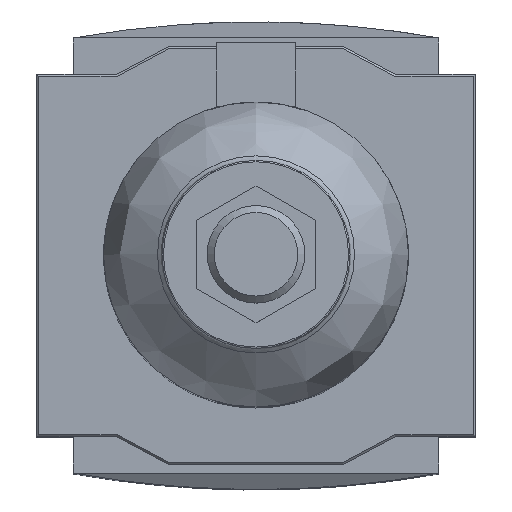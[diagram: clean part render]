
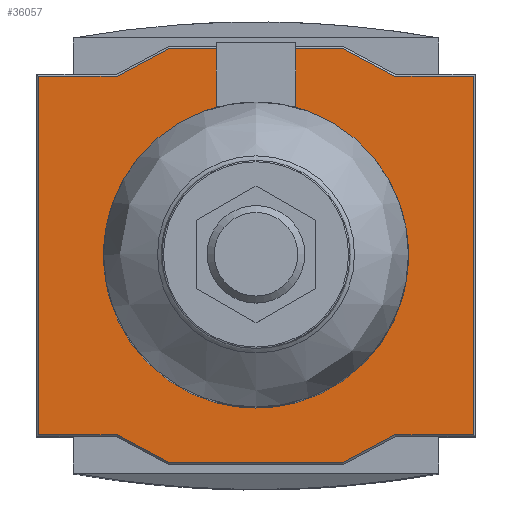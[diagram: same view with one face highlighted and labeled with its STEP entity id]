
A CAD part, top view. The second image highlights one B-rep face of the part: STEP entity #36057.
In plain terms, the highlighted planar face has unit normal (0, 0, 1).
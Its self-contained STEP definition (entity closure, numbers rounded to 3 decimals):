
#15791=CARTESIAN_POINT('',(5.7,21.145,37.5));
#15792=VERTEX_POINT('',#15791);
#15801=CARTESIAN_POINT('',(5.7,28.74,37.5));
#15802=VERTEX_POINT('',#15801);
#15803=CARTESIAN_POINT('',(5.7,28.74,37.5));
#15804=DIRECTION('',(0.0,-1.0,0.0));
#15805=VECTOR('',#15804,7.595);
#15806=LINE('',#15803,#15805);
#15807=EDGE_CURVE('',#15802,#15792,#15806,.T.);
#15833=CARTESIAN_POINT('',(-5.7,28.74,37.5));
#15834=VERTEX_POINT('',#15833);
#15835=CARTESIAN_POINT('',(0.,0.0,37.5));
#15836=DIRECTION('',(0.0,0.0,-1.0));
#15837=DIRECTION('',(0.0,1.0,0.0));
#15838=AXIS2_PLACEMENT_3D('',#15835,#15836,#15837);
#15839=CIRCLE('',#15838,29.3);
#15840=EDGE_CURVE('',#15834,#15802,#15839,.T.);
#15858=CARTESIAN_POINT('',(-5.7,21.145,37.5));
#15859=VERTEX_POINT('',#15858);
#15875=CARTESIAN_POINT('',(-5.7,21.145,37.5));
#15876=DIRECTION('',(0.0,1.0,0.0));
#15877=VECTOR('',#15876,7.595);
#15878=LINE('',#15875,#15877);
#15879=EDGE_CURVE('',#15859,#15834,#15878,.T.);
#16522=CARTESIAN_POINT('',(0.,0.0,37.5));
#16523=DIRECTION('',(0.0,0.0,-1.0));
#16524=DIRECTION('',(0.0,1.0,0.0));
#16525=AXIS2_PLACEMENT_3D('',#16522,#16523,#16524);
#16526=CIRCLE('',#16525,21.9);
#16527=EDGE_CURVE('',#15792,#15859,#16526,.T.);
#35716=CARTESIAN_POINT('',(-31.25,25.75,37.5));
#35717=VERTEX_POINT('',#35716);
#35724=CARTESIAN_POINT('',(-19.938,25.75,37.5));
#35725=VERTEX_POINT('',#35724);
#35726=CARTESIAN_POINT('',(-31.25,25.75,37.5));
#35727=DIRECTION('',(1.0,0.0,0.0));
#35728=VECTOR('',#35727,11.312);
#35729=LINE('',#35726,#35728);
#35730=EDGE_CURVE('',#35717,#35725,#35729,.T.);
#35748=CARTESIAN_POINT('',(-19.937,-25.75,37.5));
#35749=VERTEX_POINT('',#35748);
#35750=CARTESIAN_POINT('',(-31.25,-25.75,37.5));
#35751=VERTEX_POINT('',#35750);
#35752=CARTESIAN_POINT('',(-19.937,-25.75,37.5));
#35753=DIRECTION('',(-1.0,0.0,0.0));
#35754=VECTOR('',#35753,11.313);
#35755=LINE('',#35752,#35754);
#35756=EDGE_CURVE('',#35749,#35751,#35755,.T.);
#35780=CARTESIAN_POINT('',(-12.438,29.75,37.5));
#35781=VERTEX_POINT('',#35780);
#35782=CARTESIAN_POINT('',(-19.938,25.75,37.5));
#35783=DIRECTION('',(0.882,0.471,0.0));
#35784=VECTOR('',#35783,8.5);
#35785=LINE('',#35782,#35784);
#35786=EDGE_CURVE('',#35725,#35781,#35785,.T.);
#35804=CARTESIAN_POINT('',(12.438,29.75,37.5));
#35805=VERTEX_POINT('',#35804);
#35806=CARTESIAN_POINT('',(-12.438,29.75,37.5));
#35807=DIRECTION('',(1.0,0.0,0.0));
#35808=VECTOR('',#35807,24.875);
#35809=LINE('',#35806,#35808);
#35810=EDGE_CURVE('',#35781,#35805,#35809,.T.);
#35828=CARTESIAN_POINT('',(19.937,25.75,37.5));
#35829=VERTEX_POINT('',#35828);
#35830=CARTESIAN_POINT('',(31.25,25.75,37.5));
#35831=VERTEX_POINT('',#35830);
#35832=CARTESIAN_POINT('',(19.937,25.75,37.5));
#35833=DIRECTION('',(1.0,0.0,0.0));
#35834=VECTOR('',#35833,11.313);
#35835=LINE('',#35832,#35834);
#35836=EDGE_CURVE('',#35829,#35831,#35835,.T.);
#35860=CARTESIAN_POINT('',(31.25,-25.75,37.5));
#35861=VERTEX_POINT('',#35860);
#35883=CARTESIAN_POINT('',(31.25,25.75,37.5));
#35884=DIRECTION('',(0.0,-1.0,0.0));
#35885=VECTOR('',#35884,51.5);
#35886=LINE('',#35883,#35885);
#35887=EDGE_CURVE('',#35831,#35861,#35886,.T.);
#35903=CARTESIAN_POINT('',(19.937,-25.75,37.5));
#35904=VERTEX_POINT('',#35903);
#35905=CARTESIAN_POINT('',(31.25,-25.75,37.5));
#35906=DIRECTION('',(-1.0,0.0,0.0));
#35907=VECTOR('',#35906,11.313);
#35908=LINE('',#35905,#35907);
#35909=EDGE_CURVE('',#35861,#35904,#35908,.T.);
#35925=CARTESIAN_POINT('',(12.437,-29.75,37.5));
#35926=VERTEX_POINT('',#35925);
#35927=CARTESIAN_POINT('',(19.937,-25.75,37.5));
#35928=DIRECTION('',(-0.882,-0.471,0.0));
#35929=VECTOR('',#35928,8.5);
#35930=LINE('',#35927,#35929);
#35931=EDGE_CURVE('',#35904,#35926,#35930,.T.);
#35949=CARTESIAN_POINT('',(12.438,29.75,37.5));
#35950=DIRECTION('',(0.882,-0.471,0.0));
#35951=VECTOR('',#35950,8.5);
#35952=LINE('',#35949,#35951);
#35953=EDGE_CURVE('',#35805,#35829,#35952,.T.);
#35966=CARTESIAN_POINT('',(-12.437,-29.75,37.5));
#35967=VERTEX_POINT('',#35966);
#35968=CARTESIAN_POINT('',(12.437,-29.75,37.5));
#35969=DIRECTION('',(-1.0,0.0,0.0));
#35970=VECTOR('',#35969,24.875);
#35971=LINE('',#35968,#35970);
#35972=EDGE_CURVE('',#35926,#35967,#35971,.T.);
#35990=CARTESIAN_POINT('',(-12.437,-29.75,37.5));
#35991=DIRECTION('',(-0.882,0.471,0.0));
#35992=VECTOR('',#35991,8.5);
#35993=LINE('',#35990,#35992);
#35994=EDGE_CURVE('',#35967,#35749,#35993,.T.);
#36010=CARTESIAN_POINT('',(-31.25,-25.75,37.5));
#36011=DIRECTION('',(0.0,1.0,0.0));
#36012=VECTOR('',#36011,51.5);
#36013=LINE('',#36010,#36012);
#36014=EDGE_CURVE('',#35751,#35717,#36013,.T.);
#36032=CARTESIAN_POINT('',(0.,0.,37.5));
#36033=DIRECTION('',(0.0,0.0,1.0));
#36034=DIRECTION('',(1.0,0.0,0.0));
#36035=AXIS2_PLACEMENT_3D('',#36032,#36033,#36034);
#36036=PLANE('',#36035);
#36037=ORIENTED_EDGE('',*,*,#35836,.F.);
#36038=ORIENTED_EDGE('',*,*,#35953,.F.);
#36039=ORIENTED_EDGE('',*,*,#35810,.F.);
#36040=ORIENTED_EDGE('',*,*,#35786,.F.);
#36041=ORIENTED_EDGE('',*,*,#35730,.F.);
#36042=ORIENTED_EDGE('',*,*,#36014,.F.);
#36043=ORIENTED_EDGE('',*,*,#35756,.F.);
#36044=ORIENTED_EDGE('',*,*,#35994,.F.);
#36045=ORIENTED_EDGE('',*,*,#35972,.F.);
#36046=ORIENTED_EDGE('',*,*,#35931,.F.);
#36047=ORIENTED_EDGE('',*,*,#35909,.F.);
#36048=ORIENTED_EDGE('',*,*,#35887,.F.);
#36049=EDGE_LOOP('',(#36037,#36038,#36039,#36040,#36041,#36042,#36043,#36044,#36045,#36046,#36047,#36048));
#36050=FACE_OUTER_BOUND('',#36049,.T.);
#36051=ORIENTED_EDGE('',*,*,#15807,.T.);
#36052=ORIENTED_EDGE('',*,*,#16527,.T.);
#36053=ORIENTED_EDGE('',*,*,#15879,.T.);
#36054=ORIENTED_EDGE('',*,*,#15840,.T.);
#36055=EDGE_LOOP('',(#36051,#36052,#36053,#36054));
#36056=FACE_BOUND('',#36055,.T.);
#36057=ADVANCED_FACE('',(#36050,#36056),#36036,.T.);
